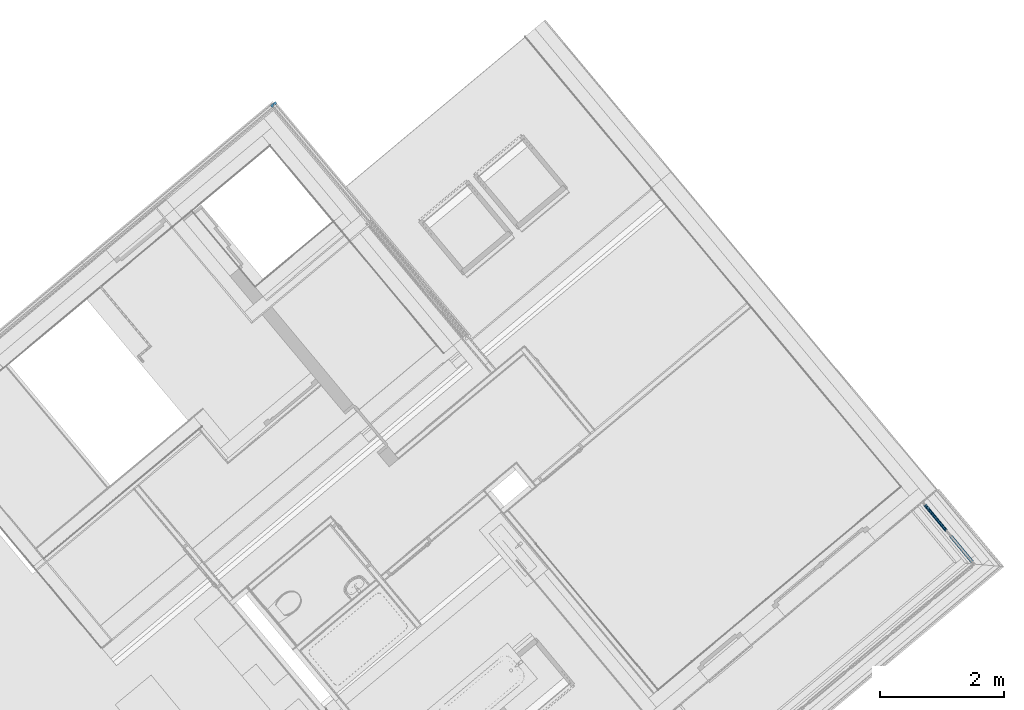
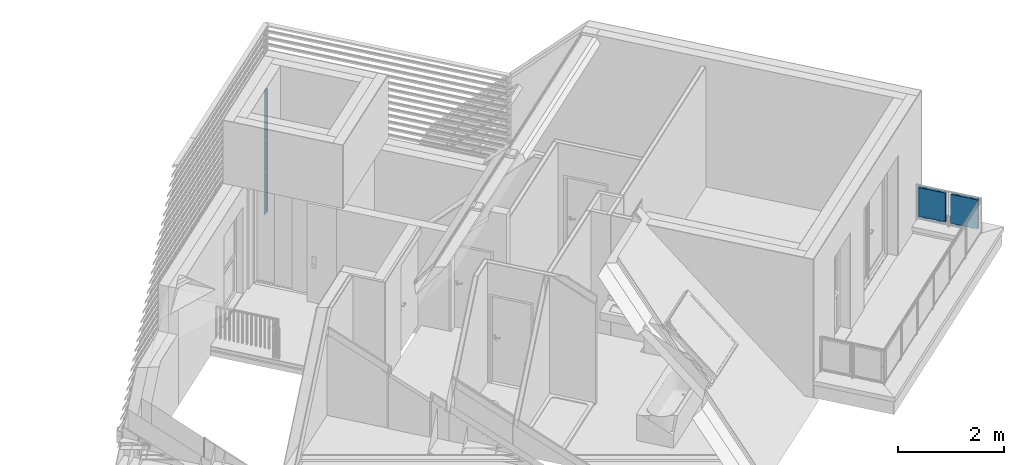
# One storey, part 42 of 47: 22 building element parts, 2 elements without a shape of their own.
"""IFC4 building model written with IfcOpenShell, lengths in metres."""

from ifc_helpers import new_model, entity, si_unit, converted_unit, derived_unit, direction, frame, origin_with_axes, place, context, subcontext, project, spatial, polygons, material, type_object, element, aggregate, save


model = new_model("IFC4")

# Units and contexts
model_context = context("Model", 3, precision=1e-05, world=origin_with_axes(), true_north=direction((0.0, 1.0)))
body_context = subcontext(model_context, "Body", "Model", "MODEL_VIEW")
ifc_project = project(units=[si_unit("LENGTHUNIT", "METRE"), si_unit("AREAUNIT", "SQUARE_METRE"), si_unit("VOLUMEUNIT", "CUBIC_METRE"), converted_unit("PLANEANGLEUNIT", "DEGREE", entity("IfcPlaneAngleMeasure", 0.0174532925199), si_unit("PLANEANGLEUNIT", "RADIAN"), dimensions=[0, 0, 0, 0, 0, 0, 0]), converted_unit("TIMEUNIT", "Year", entity("IfcTimeMeasure", 31556926.0), si_unit("TIMEUNIT", "SECOND"), dimensions=[0, 0, 1, 0, 0, 0, 0]), si_unit("MASSUNIT", "GRAM", prefix="KILO"), si_unit("THERMODYNAMICTEMPERATUREUNIT", "DEGREE_CELSIUS"), si_unit("LUMINOUSINTENSITYUNIT", "LUMEN"), si_unit("ENERGYUNIT", "JOULE", prefix="MEGA"), derived_unit("THERMALCONDUCTANCEUNIT", [(si_unit("POWERUNIT", "WATT"), 1), (si_unit("LENGTHUNIT", "METRE"), -1), (si_unit("THERMODYNAMICTEMPERATUREUNIT", "KELVIN"), -1)]), derived_unit("SPECIFICHEATCAPACITYUNIT", [(si_unit("ENERGYUNIT", "JOULE"), 1), (si_unit("MASSUNIT", "GRAM", prefix="KILO"), -1), (si_unit("THERMODYNAMICTEMPERATUREUNIT", "KELVIN"), -1)]), derived_unit("MASSDENSITYUNIT", [(si_unit("MASSUNIT", "GRAM", prefix="KILO"), 1), (si_unit("VOLUMEUNIT", "CUBIC_METRE"), -1)])], contexts=[model_context])

# Site, building, storey
site_placement = place(None, frame((-0.00153261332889, -0.00661245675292, 0.0), z_axis=(0.0, 0.0, 1.0), x_axis=(1.0, 0.0, 0.0)))
site = spatial("IfcSite", under=ifc_project, at=site_placement, Name="Site", CompositionType="ELEMENT")
building_placement = place(site_placement, origin_with_axes())
building = spatial("IfcBuilding", under=site, at=building_placement, Name="Building", CompositionType="ELEMENT")
storey_placement = place(building_placement, frame((0.0, 0.0, 8.66), z_axis=(0.0, 0.0, 1.0), x_axis=(1.0, 0.0, 0.0)))
storey = spatial("IfcBuildingStorey", under=building, at=storey_placement, Name="DG2", CompositionType="ELEMENT", Elevation=8.66)

# Curtain wall, building element parts
curtain_wall_type = type_object("IfcCurtainWallType", Name="Fassadentyp", PredefinedType="NOTDEFINED")
curtain_wall_placement = place(storey_placement, frame((3.22758193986, 25.8519152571, 0.32), z_axis=(0.0, 0.0, 1.0), x_axis=(1.0, 0.0, 0.0)))
curtain_wall = element("IfcCurtainWall", 1, at=curtain_wall_placement, inside=storey, type_object=curtain_wall_type, Name="Fassade-001", PredefinedType="NOTDEFINED")
ifc_material_1 = material(Name="Blech")
building_element_part_1_placement = place(curtain_wall_placement, origin_with_axes())
building_element_part_1 = element("IfcBuildingElementPart", 2, at=building_element_part_1_placement, material=ifc_material_1, Name="Blech", PredefinedType="NOTDEFINED", context=body_context, shape_type="Tessellation", body=[
    polygons([(-1.57788459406, 1.86580520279, 0.15), (-1.55485923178, 1.88503623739, 0.15), (-1.54203854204, 1.86968599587, 0.15), (-1.51517561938, 1.8921222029, 0.15), (-1.54081699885, 1.92282268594, 0.15), (-1.61756820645, 1.85871923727, 0.15), (-1.59192682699, 1.82801875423, 0.15), (-1.56506390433, 1.85045496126, 0.15), (-1.57788459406, 1.86580520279, 0.0), (-1.55485923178, 1.88503623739, 0.0), (-1.54203854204, 1.86968599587, 0.02), (-1.51517561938, 1.8921222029, 0.02), (-1.54081699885, 1.92282268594, -0.02), (-1.61756820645, 1.85871923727, -0.02), (-1.59192682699, 1.82801875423, 0.02), (-1.56506390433, 1.85045496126, 0.02)], [[[1, 2, 3, 4, 5, 6, 7, 8]], [[2, 1, 9, 10]], [[11, 3, 2, 10]], [[3, 11, 12, 4]], [[5, 4, 12, 13]], [[6, 5, 13, 14]], [[7, 6, 14, 15]], [[16, 8, 7, 15]], [[1, 8, 16, 9]], [[9, 16, 15, 14, 13, 12, 11, 10]]], closed=True),
])
building_element_part_2_placement = place(curtain_wall_placement, origin_with_axes())
building_element_part_2 = element("IfcBuildingElementPart", 3, at=building_element_part_2_placement, material=ifc_material_1, Name="Blech", PredefinedType="NOTDEFINED", context=body_context, shape_type="Tessellation", body=[
    polygons([(-1.57788459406, 1.86580520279, 0.3), (-1.55485923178, 1.88503623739, 0.3), (-1.54203854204, 1.86968599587, 0.3), (-1.51517561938, 1.8921222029, 0.3), (-1.54081699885, 1.92282268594, 0.3), (-1.61756820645, 1.85871923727, 0.3), (-1.59192682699, 1.82801875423, 0.3), (-1.56506390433, 1.85045496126, 0.3), (-1.57788459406, 1.86580520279, 0.15), (-1.55485923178, 1.88503623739, 0.15), (-1.54203854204, 1.86968599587, 0.15), (-1.51517561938, 1.8921222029, 0.15), (-1.54081699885, 1.92282268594, 0.15), (-1.61756820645, 1.85871923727, 0.15), (-1.59192682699, 1.82801875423, 0.15), (-1.56506390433, 1.85045496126, 0.15)], [[[1, 2, 3, 4, 5, 6, 7, 8]], [[2, 1, 9, 10]], [[11, 3, 2, 10]], [[3, 11, 12, 4]], [[13, 5, 4, 12]], [[14, 6, 5, 13]], [[15, 7, 6, 14]], [[16, 8, 7, 15]], [[1, 8, 16, 9]], [[9, 16, 15, 14, 13, 12, 11, 10]]], closed=True),
])
building_element_part_3_placement = place(curtain_wall_placement, origin_with_axes())
building_element_part_3 = element("IfcBuildingElementPart", 4, at=building_element_part_3_placement, material=ifc_material_1, Name="Blech", PredefinedType="NOTDEFINED", context=body_context, shape_type="Tessellation", body=[
    polygons([(-1.57788459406, 1.86580520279, 0.45), (-1.55485923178, 1.88503623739, 0.45), (-1.54203854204, 1.86968599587, 0.45), (-1.51517561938, 1.8921222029, 0.45), (-1.54081699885, 1.92282268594, 0.45), (-1.61756820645, 1.85871923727, 0.45), (-1.59192682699, 1.82801875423, 0.45), (-1.56506390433, 1.85045496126, 0.45), (-1.57788459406, 1.86580520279, 0.3), (-1.55485923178, 1.88503623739, 0.3), (-1.54203854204, 1.86968599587, 0.3), (-1.51517561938, 1.8921222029, 0.3), (-1.54081699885, 1.92282268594, 0.3), (-1.61756820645, 1.85871923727, 0.3), (-1.59192682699, 1.82801875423, 0.3), (-1.56506390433, 1.85045496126, 0.3)], [[[1, 2, 3, 4, 5, 6, 7, 8]], [[2, 1, 9, 10]], [[11, 3, 2, 10]], [[3, 11, 12, 4]], [[13, 5, 4, 12]], [[14, 6, 5, 13]], [[15, 7, 6, 14]], [[16, 8, 7, 15]], [[1, 8, 16, 9]], [[9, 16, 15, 14, 13, 12, 11, 10]]], closed=True),
])
building_element_part_4_placement = place(curtain_wall_placement, origin_with_axes())
building_element_part_4 = element("IfcBuildingElementPart", 5, at=building_element_part_4_placement, material=ifc_material_1, Name="Blech", PredefinedType="NOTDEFINED", context=body_context, shape_type="Tessellation", body=[
    polygons([(-1.57788459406, 1.86580520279, 0.6), (-1.55485923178, 1.88503623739, 0.6), (-1.54203854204, 1.86968599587, 0.6), (-1.51517561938, 1.8921222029, 0.6), (-1.54081699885, 1.92282268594, 0.6), (-1.61756820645, 1.85871923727, 0.6), (-1.59192682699, 1.82801875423, 0.6), (-1.56506390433, 1.85045496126, 0.6), (-1.57788459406, 1.86580520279, 0.45), (-1.55485923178, 1.88503623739, 0.45), (-1.54203854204, 1.86968599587, 0.45), (-1.51517561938, 1.8921222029, 0.45), (-1.54081699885, 1.92282268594, 0.45), (-1.61756820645, 1.85871923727, 0.45), (-1.59192682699, 1.82801875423, 0.45), (-1.56506390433, 1.85045496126, 0.45)], [[[1, 2, 3, 4, 5, 6, 7, 8]], [[2, 1, 9, 10]], [[11, 3, 2, 10]], [[3, 11, 12, 4]], [[13, 5, 4, 12]], [[14, 6, 5, 13]], [[15, 7, 6, 14]], [[16, 8, 7, 15]], [[1, 8, 16, 9]], [[9, 16, 15, 14, 13, 12, 11, 10]]], closed=True),
])
building_element_part_5_placement = place(curtain_wall_placement, origin_with_axes())
building_element_part_5 = element("IfcBuildingElementPart", 6, at=building_element_part_5_placement, material=ifc_material_1, Name="Blech", PredefinedType="NOTDEFINED", context=body_context, shape_type="Tessellation", body=[
    polygons([(-1.57788459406, 1.86580520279, 0.75), (-1.55485923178, 1.88503623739, 0.75), (-1.54203854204, 1.86968599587, 0.75), (-1.51517561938, 1.8921222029, 0.75), (-1.54081699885, 1.92282268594, 0.75), (-1.61756820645, 1.85871923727, 0.75), (-1.59192682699, 1.82801875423, 0.75), (-1.56506390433, 1.85045496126, 0.75), (-1.57788459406, 1.86580520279, 0.6), (-1.55485923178, 1.88503623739, 0.6), (-1.54203854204, 1.86968599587, 0.6), (-1.51517561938, 1.8921222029, 0.6), (-1.54081699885, 1.92282268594, 0.6), (-1.61756820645, 1.85871923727, 0.6), (-1.59192682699, 1.82801875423, 0.6), (-1.56506390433, 1.85045496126, 0.6)], [[[1, 2, 3, 4, 5, 6, 7, 8]], [[2, 1, 9, 10]], [[11, 3, 2, 10]], [[3, 11, 12, 4]], [[13, 5, 4, 12]], [[14, 6, 5, 13]], [[15, 7, 6, 14]], [[16, 8, 7, 15]], [[1, 8, 16, 9]], [[9, 16, 15, 14, 13, 12, 11, 10]]], closed=True),
])
building_element_part_6_placement = place(curtain_wall_placement, origin_with_axes())
building_element_part_6 = element("IfcBuildingElementPart", 7, at=building_element_part_6_placement, material=ifc_material_1, Name="Blech", PredefinedType="NOTDEFINED", context=body_context, shape_type="Tessellation", body=[
    polygons([(-1.57788459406, 1.86580520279, 0.9), (-1.55485923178, 1.88503623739, 0.9), (-1.54203854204, 1.86968599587, 0.9), (-1.51517561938, 1.8921222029, 0.9), (-1.54081699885, 1.92282268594, 0.9), (-1.61756820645, 1.85871923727, 0.9), (-1.59192682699, 1.82801875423, 0.9), (-1.56506390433, 1.85045496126, 0.9), (-1.57788459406, 1.86580520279, 0.75), (-1.55485923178, 1.88503623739, 0.75), (-1.54203854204, 1.86968599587, 0.75), (-1.51517561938, 1.8921222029, 0.75), (-1.54081699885, 1.92282268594, 0.75), (-1.61756820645, 1.85871923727, 0.75), (-1.59192682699, 1.82801875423, 0.75), (-1.56506390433, 1.85045496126, 0.75)], [[[1, 2, 3, 4, 5, 6, 7, 8]], [[2, 1, 9, 10]], [[11, 3, 2, 10]], [[3, 11, 12, 4]], [[13, 5, 4, 12]], [[14, 6, 5, 13]], [[15, 7, 6, 14]], [[16, 8, 7, 15]], [[1, 8, 16, 9]], [[9, 16, 15, 14, 13, 12, 11, 10]]], closed=True),
])
building_element_part_7_placement = place(curtain_wall_placement, origin_with_axes())
building_element_part_7 = element("IfcBuildingElementPart", 8, at=building_element_part_7_placement, material=ifc_material_1, Name="Blech", PredefinedType="NOTDEFINED", context=body_context, shape_type="Tessellation", body=[
    polygons([(-1.57788459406, 1.86580520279, 1.05), (-1.55485923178, 1.88503623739, 1.05), (-1.54203854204, 1.86968599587, 1.05), (-1.51517561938, 1.8921222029, 1.05), (-1.54081699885, 1.92282268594, 1.05), (-1.61756820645, 1.85871923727, 1.05), (-1.59192682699, 1.82801875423, 1.05), (-1.56506390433, 1.85045496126, 1.05), (-1.57788459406, 1.86580520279, 0.9), (-1.55485923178, 1.88503623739, 0.9), (-1.54203854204, 1.86968599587, 0.9), (-1.51517561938, 1.8921222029, 0.9), (-1.54081699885, 1.92282268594, 0.9), (-1.61756820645, 1.85871923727, 0.9), (-1.59192682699, 1.82801875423, 0.9), (-1.56506390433, 1.85045496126, 0.9)], [[[1, 2, 3, 4, 5, 6, 7, 8]], [[2, 1, 9, 10]], [[11, 3, 2, 10]], [[3, 11, 12, 4]], [[13, 5, 4, 12]], [[14, 6, 5, 13]], [[15, 7, 6, 14]], [[16, 8, 7, 15]], [[1, 8, 16, 9]], [[9, 16, 15, 14, 13, 12, 11, 10]]], closed=True),
])
building_element_part_8_placement = place(curtain_wall_placement, origin_with_axes())
building_element_part_8 = element("IfcBuildingElementPart", 9, at=building_element_part_8_placement, material=ifc_material_1, Name="Blech", PredefinedType="NOTDEFINED", context=body_context, shape_type="Tessellation", body=[
    polygons([(-1.57788459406, 1.86580520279, 1.2), (-1.55485923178, 1.88503623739, 1.2), (-1.54203854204, 1.86968599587, 1.2), (-1.51517561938, 1.8921222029, 1.2), (-1.54081699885, 1.92282268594, 1.2), (-1.61756820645, 1.85871923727, 1.2), (-1.59192682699, 1.82801875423, 1.2), (-1.56506390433, 1.85045496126, 1.2), (-1.57788459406, 1.86580520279, 1.05), (-1.55485923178, 1.88503623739, 1.05), (-1.54203854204, 1.86968599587, 1.05), (-1.51517561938, 1.8921222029, 1.05), (-1.54081699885, 1.92282268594, 1.05), (-1.61756820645, 1.85871923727, 1.05), (-1.59192682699, 1.82801875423, 1.05), (-1.56506390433, 1.85045496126, 1.05)], [[[1, 2, 3, 4, 5, 6, 7, 8]], [[2, 1, 9, 10]], [[11, 3, 2, 10]], [[3, 11, 12, 4]], [[13, 5, 4, 12]], [[14, 6, 5, 13]], [[15, 7, 6, 14]], [[16, 8, 7, 15]], [[1, 8, 16, 9]], [[9, 16, 15, 14, 13, 12, 11, 10]]], closed=True),
])
building_element_part_9_placement = place(curtain_wall_placement, origin_with_axes())
building_element_part_9 = element("IfcBuildingElementPart", 10, at=building_element_part_9_placement, material=ifc_material_1, Name="Blech", PredefinedType="NOTDEFINED", context=body_context, shape_type="Tessellation", body=[
    polygons([(-1.57788459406, 1.86580520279, 1.35), (-1.55485923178, 1.88503623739, 1.35), (-1.54203854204, 1.86968599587, 1.35), (-1.51517561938, 1.8921222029, 1.35), (-1.54081699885, 1.92282268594, 1.35), (-1.61756820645, 1.85871923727, 1.35), (-1.59192682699, 1.82801875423, 1.35), (-1.56506390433, 1.85045496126, 1.35), (-1.57788459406, 1.86580520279, 1.2), (-1.55485923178, 1.88503623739, 1.2), (-1.54203854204, 1.86968599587, 1.2), (-1.51517561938, 1.8921222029, 1.2), (-1.54081699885, 1.92282268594, 1.2), (-1.61756820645, 1.85871923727, 1.2), (-1.59192682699, 1.82801875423, 1.2), (-1.56506390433, 1.85045496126, 1.2)], [[[1, 2, 3, 4, 5, 6, 7, 8]], [[2, 1, 9, 10]], [[11, 3, 2, 10]], [[3, 11, 12, 4]], [[13, 5, 4, 12]], [[14, 6, 5, 13]], [[15, 7, 6, 14]], [[16, 8, 7, 15]], [[1, 8, 16, 9]], [[9, 16, 15, 14, 13, 12, 11, 10]]], closed=True),
])
building_element_part_10_placement = place(curtain_wall_placement, origin_with_axes())
building_element_part_10 = element("IfcBuildingElementPart", 11, at=building_element_part_10_placement, material=ifc_material_1, Name="Blech", PredefinedType="NOTDEFINED", context=body_context, shape_type="Tessellation", body=[
    polygons([(-1.57788459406, 1.86580520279, 1.5), (-1.55485923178, 1.88503623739, 1.5), (-1.54203854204, 1.86968599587, 1.5), (-1.51517561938, 1.8921222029, 1.5), (-1.54081699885, 1.92282268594, 1.5), (-1.61756820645, 1.85871923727, 1.5), (-1.59192682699, 1.82801875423, 1.5), (-1.56506390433, 1.85045496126, 1.5), (-1.57788459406, 1.86580520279, 1.35), (-1.55485923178, 1.88503623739, 1.35), (-1.54203854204, 1.86968599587, 1.35), (-1.51517561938, 1.8921222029, 1.35), (-1.54081699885, 1.92282268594, 1.35), (-1.61756820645, 1.85871923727, 1.35), (-1.59192682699, 1.82801875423, 1.35), (-1.56506390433, 1.85045496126, 1.35)], [[[1, 2, 3, 4, 5, 6, 7, 8]], [[2, 1, 9, 10]], [[11, 3, 2, 10]], [[3, 11, 12, 4]], [[13, 5, 4, 12]], [[14, 6, 5, 13]], [[15, 7, 6, 14]], [[16, 8, 7, 15]], [[1, 8, 16, 9]], [[9, 16, 15, 14, 13, 12, 11, 10]]], closed=True),
])
building_element_part_11_placement = place(curtain_wall_placement, origin_with_axes())
building_element_part_11 = element("IfcBuildingElementPart", 12, at=building_element_part_11_placement, material=ifc_material_1, Name="Blech", PredefinedType="NOTDEFINED", context=body_context, shape_type="Tessellation", body=[
    polygons([(-1.57788459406, 1.86580520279, 1.65), (-1.55485923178, 1.88503623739, 1.65), (-1.54203854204, 1.86968599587, 1.65), (-1.51517561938, 1.8921222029, 1.65), (-1.54081699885, 1.92282268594, 1.65), (-1.61756820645, 1.85871923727, 1.65), (-1.59192682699, 1.82801875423, 1.65), (-1.56506390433, 1.85045496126, 1.65), (-1.57788459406, 1.86580520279, 1.5), (-1.55485923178, 1.88503623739, 1.5), (-1.54203854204, 1.86968599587, 1.5), (-1.51517561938, 1.8921222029, 1.5), (-1.54081699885, 1.92282268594, 1.5), (-1.61756820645, 1.85871923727, 1.5), (-1.59192682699, 1.82801875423, 1.5), (-1.56506390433, 1.85045496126, 1.5)], [[[1, 2, 3, 4, 5, 6, 7, 8]], [[2, 1, 9, 10]], [[11, 3, 2, 10]], [[3, 11, 12, 4]], [[13, 5, 4, 12]], [[14, 6, 5, 13]], [[15, 7, 6, 14]], [[16, 8, 7, 15]], [[1, 8, 16, 9]], [[9, 16, 15, 14, 13, 12, 11, 10]]], closed=True),
])
building_element_part_12_placement = place(curtain_wall_placement, origin_with_axes())
building_element_part_12 = element("IfcBuildingElementPart", 13, at=building_element_part_12_placement, material=ifc_material_1, Name="Blech", PredefinedType="NOTDEFINED", context=body_context, shape_type="Tessellation", body=[
    polygons([(-1.57788459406, 1.86580520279, 1.8), (-1.55485923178, 1.88503623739, 1.8), (-1.54203854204, 1.86968599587, 1.8), (-1.51517561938, 1.8921222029, 1.8), (-1.54081699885, 1.92282268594, 1.8), (-1.61756820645, 1.85871923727, 1.8), (-1.59192682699, 1.82801875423, 1.8), (-1.56506390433, 1.85045496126, 1.8), (-1.57788459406, 1.86580520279, 1.65), (-1.55485923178, 1.88503623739, 1.65), (-1.54203854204, 1.86968599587, 1.65), (-1.51517561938, 1.8921222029, 1.65), (-1.54081699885, 1.92282268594, 1.65), (-1.61756820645, 1.85871923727, 1.65), (-1.59192682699, 1.82801875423, 1.65), (-1.56506390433, 1.85045496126, 1.65)], [[[1, 2, 3, 4, 5, 6, 7, 8]], [[2, 1, 9, 10]], [[11, 3, 2, 10]], [[3, 11, 12, 4]], [[13, 5, 4, 12]], [[14, 6, 5, 13]], [[15, 7, 6, 14]], [[16, 8, 7, 15]], [[1, 8, 16, 9]], [[9, 16, 15, 14, 13, 12, 11, 10]]], closed=True),
])
building_element_part_13_placement = place(curtain_wall_placement, origin_with_axes())
building_element_part_13 = element("IfcBuildingElementPart", 14, at=building_element_part_13_placement, material=ifc_material_1, Name="Blech", PredefinedType="NOTDEFINED", context=body_context, shape_type="Tessellation", body=[
    polygons([(-1.57788459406, 1.86580520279, 1.95), (-1.55485923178, 1.88503623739, 1.95), (-1.54203854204, 1.86968599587, 1.95), (-1.51517561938, 1.8921222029, 1.95), (-1.54081699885, 1.92282268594, 1.95), (-1.61756820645, 1.85871923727, 1.95), (-1.59192682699, 1.82801875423, 1.95), (-1.56506390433, 1.85045496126, 1.95), (-1.57788459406, 1.86580520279, 1.8), (-1.55485923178, 1.88503623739, 1.8), (-1.54203854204, 1.86968599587, 1.8), (-1.51517561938, 1.8921222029, 1.8), (-1.54081699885, 1.92282268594, 1.8), (-1.61756820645, 1.85871923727, 1.8), (-1.59192682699, 1.82801875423, 1.8), (-1.56506390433, 1.85045496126, 1.8)], [[[1, 2, 3, 4, 5, 6, 7, 8]], [[2, 1, 9, 10]], [[11, 3, 2, 10]], [[3, 11, 12, 4]], [[13, 5, 4, 12]], [[14, 6, 5, 13]], [[15, 7, 6, 14]], [[16, 8, 7, 15]], [[1, 8, 16, 9]], [[9, 16, 15, 14, 13, 12, 11, 10]]], closed=True),
])
building_element_part_14_placement = place(curtain_wall_placement, origin_with_axes())
building_element_part_14 = element("IfcBuildingElementPart", 15, at=building_element_part_14_placement, material=ifc_material_1, Name="Blech", PredefinedType="NOTDEFINED", context=body_context, shape_type="Tessellation", body=[
    polygons([(-1.57788459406, 1.86580520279, 2.1), (-1.55485923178, 1.88503623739, 2.1), (-1.54203854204, 1.86968599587, 2.1), (-1.51517561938, 1.8921222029, 2.1), (-1.54081699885, 1.92282268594, 2.1), (-1.61756820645, 1.85871923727, 2.1), (-1.59192682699, 1.82801875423, 2.1), (-1.56506390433, 1.85045496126, 2.1), (-1.57788459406, 1.86580520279, 1.95), (-1.55485923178, 1.88503623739, 1.95), (-1.54203854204, 1.86968599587, 1.95), (-1.51517561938, 1.8921222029, 1.95), (-1.54081699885, 1.92282268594, 1.95), (-1.61756820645, 1.85871923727, 1.95), (-1.59192682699, 1.82801875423, 1.95), (-1.56506390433, 1.85045496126, 1.95)], [[[1, 2, 3, 4, 5, 6, 7, 8]], [[2, 1, 9, 10]], [[11, 3, 2, 10]], [[3, 11, 12, 4]], [[13, 5, 4, 12]], [[14, 6, 5, 13]], [[15, 7, 6, 14]], [[16, 8, 7, 15]], [[1, 8, 16, 9]], [[9, 16, 15, 14, 13, 12, 11, 10]]], closed=True),
])
building_element_part_15_placement = place(curtain_wall_placement, origin_with_axes())
building_element_part_15 = element("IfcBuildingElementPart", 16, at=building_element_part_15_placement, material=ifc_material_1, Name="Blech", PredefinedType="NOTDEFINED", context=body_context, shape_type="Tessellation", body=[
    polygons([(-1.57788459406, 1.86580520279, 2.25), (-1.55485923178, 1.88503623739, 2.25), (-1.54203854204, 1.86968599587, 2.25), (-1.51517561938, 1.8921222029, 2.25), (-1.54081699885, 1.92282268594, 2.25), (-1.61756820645, 1.85871923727, 2.25), (-1.59192682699, 1.82801875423, 2.25), (-1.56506390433, 1.85045496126, 2.25), (-1.57788459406, 1.86580520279, 2.1), (-1.55485923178, 1.88503623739, 2.1), (-1.54203854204, 1.86968599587, 2.1), (-1.51517561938, 1.8921222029, 2.1), (-1.54081699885, 1.92282268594, 2.1), (-1.61756820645, 1.85871923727, 2.1), (-1.59192682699, 1.82801875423, 2.1), (-1.56506390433, 1.85045496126, 2.1)], [[[1, 2, 3, 4, 5, 6, 7, 8]], [[2, 1, 9, 10]], [[11, 3, 2, 10]], [[3, 11, 12, 4]], [[13, 5, 4, 12]], [[14, 6, 5, 13]], [[15, 7, 6, 14]], [[16, 8, 7, 15]], [[1, 8, 16, 9]], [[9, 16, 15, 14, 13, 12, 11, 10]]], closed=True),
])
building_element_part_16_placement = place(curtain_wall_placement, origin_with_axes())
building_element_part_16 = element("IfcBuildingElementPart", 17, at=building_element_part_16_placement, material=ifc_material_1, Name="Blech", PredefinedType="NOTDEFINED", context=body_context, shape_type="Tessellation", body=[
    polygons([(-1.57788459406, 1.86580520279, 2.4), (-1.55485923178, 1.88503623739, 2.4), (-1.54203854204, 1.86968599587, 2.4), (-1.51517561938, 1.8921222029, 2.4), (-1.54081699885, 1.92282268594, 2.4), (-1.61756820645, 1.85871923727, 2.4), (-1.59192682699, 1.82801875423, 2.4), (-1.56506390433, 1.85045496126, 2.4), (-1.57788459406, 1.86580520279, 2.25), (-1.55485923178, 1.88503623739, 2.25), (-1.54203854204, 1.86968599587, 2.25), (-1.51517561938, 1.8921222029, 2.25), (-1.54081699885, 1.92282268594, 2.25), (-1.61756820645, 1.85871923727, 2.25), (-1.59192682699, 1.82801875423, 2.25), (-1.56506390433, 1.85045496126, 2.25)], [[[1, 2, 3, 4, 5, 6, 7, 8]], [[2, 1, 9, 10]], [[11, 3, 2, 10]], [[3, 11, 12, 4]], [[13, 5, 4, 12]], [[14, 6, 5, 13]], [[15, 7, 6, 14]], [[16, 8, 7, 15]], [[1, 8, 16, 9]], [[9, 16, 15, 14, 13, 12, 11, 10]]], closed=True),
])
building_element_part_17_placement = place(curtain_wall_placement, origin_with_axes())
building_element_part_17 = element("IfcBuildingElementPart", 18, at=building_element_part_17_placement, material=ifc_material_1, Name="Blech", PredefinedType="NOTDEFINED", context=body_context, shape_type="Tessellation", body=[
    polygons([(-1.57788459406, 1.86580520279, 2.55), (-1.55485923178, 1.88503623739, 2.55), (-1.54203854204, 1.86968599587, 2.55), (-1.51517561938, 1.8921222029, 2.55), (-1.54081699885, 1.92282268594, 2.55), (-1.61756820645, 1.85871923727, 2.55), (-1.59192682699, 1.82801875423, 2.55), (-1.56506390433, 1.85045496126, 2.55), (-1.57788459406, 1.86580520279, 2.4), (-1.55485923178, 1.88503623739, 2.4), (-1.54203854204, 1.86968599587, 2.4), (-1.51517561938, 1.8921222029, 2.4), (-1.54081699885, 1.92282268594, 2.4), (-1.61756820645, 1.85871923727, 2.4), (-1.59192682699, 1.82801875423, 2.4), (-1.56506390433, 1.85045496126, 2.4)], [[[1, 2, 3, 4, 5, 6, 7, 8]], [[2, 1, 9, 10]], [[11, 3, 2, 10]], [[3, 11, 12, 4]], [[13, 5, 4, 12]], [[14, 6, 5, 13]], [[15, 7, 6, 14]], [[16, 8, 7, 15]], [[1, 8, 16, 9]], [[9, 16, 15, 14, 13, 12, 11, 10]]], closed=True),
])
building_element_part_18_placement = place(curtain_wall_placement, origin_with_axes())
building_element_part_18 = element("IfcBuildingElementPart", 19, at=building_element_part_18_placement, material=ifc_material_1, Name="Blech", PredefinedType="NOTDEFINED", context=body_context, shape_type="Tessellation", body=[
    polygons([(-1.57788459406, 1.86580520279, 2.7), (-1.55485923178, 1.88503623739, 2.7), (-1.54203854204, 1.86968599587, 2.7), (-1.51517561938, 1.8921222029, 2.7), (-1.54081699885, 1.92282268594, 2.7), (-1.61756820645, 1.85871923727, 2.7), (-1.59192682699, 1.82801875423, 2.7), (-1.56506390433, 1.85045496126, 2.7), (-1.57788459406, 1.86580520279, 2.55), (-1.55485923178, 1.88503623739, 2.55), (-1.54203854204, 1.86968599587, 2.55), (-1.51517561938, 1.8921222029, 2.55), (-1.54081699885, 1.92282268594, 2.55), (-1.61756820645, 1.85871923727, 2.55), (-1.59192682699, 1.82801875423, 2.55), (-1.56506390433, 1.85045496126, 2.55)], [[[1, 2, 3, 4, 5, 6, 7, 8]], [[2, 1, 9, 10]], [[11, 3, 2, 10]], [[3, 11, 12, 4]], [[13, 5, 4, 12]], [[14, 6, 5, 13]], [[15, 7, 6, 14]], [[16, 8, 7, 15]], [[1, 8, 16, 9]], [[9, 16, 15, 14, 13, 12, 11, 10]]], closed=True),
])
building_element_part_19_placement = place(curtain_wall_placement, origin_with_axes())
building_element_part_19 = element("IfcBuildingElementPart", 20, at=building_element_part_19_placement, material=ifc_material_1, Name="Blech", PredefinedType="NOTDEFINED", context=body_context, shape_type="Tessellation", body=[
    polygons([(-1.57788459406, 1.86580520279, 2.85), (-1.55485923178, 1.88503623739, 2.85), (-1.54203854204, 1.86968599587, 2.85), (-1.51517561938, 1.8921222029, 2.85), (-1.54081699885, 1.92282268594, 2.85), (-1.61756820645, 1.85871923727, 2.85), (-1.59192682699, 1.82801875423, 2.85), (-1.56506390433, 1.85045496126, 2.85), (-1.57788459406, 1.86580520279, 2.7), (-1.55485923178, 1.88503623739, 2.7), (-1.54203854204, 1.86968599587, 2.7), (-1.51517561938, 1.8921222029, 2.7), (-1.54081699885, 1.92282268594, 2.7), (-1.61756820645, 1.85871923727, 2.7), (-1.59192682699, 1.82801875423, 2.7), (-1.56506390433, 1.85045496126, 2.7)], [[[1, 2, 3, 4, 5, 6, 7, 8]], [[2, 1, 9, 10]], [[11, 3, 2, 10]], [[3, 11, 12, 4]], [[13, 5, 4, 12]], [[14, 6, 5, 13]], [[15, 7, 6, 14]], [[16, 8, 7, 15]], [[1, 8, 16, 9]], [[9, 16, 15, 14, 13, 12, 11, 10]]], closed=True),
])
aggregate(curtain_wall, [building_element_part_1, building_element_part_2, building_element_part_3, building_element_part_4, building_element_part_5, building_element_part_6, building_element_part_7, building_element_part_8, building_element_part_9, building_element_part_10, building_element_part_11, building_element_part_12, building_element_part_13, building_element_part_14, building_element_part_15, building_element_part_16, building_element_part_17, building_element_part_18, building_element_part_19])

# Railing, building element parts
railing_type = type_object("IfcRailingType", Name="Geländerart", PredefinedType="NOTDEFINED")
railing_placement = place(storey_placement, frame((8.09801261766, 17.9211539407, 0.38), z_axis=(0.0, 0.0, 1.0), x_axis=(1.0, 0.0, 0.0)))
railing = element("IfcRailing", 21, at=railing_placement, inside=storey, type_object=railing_type, Name="Geländer - 001", PredefinedType="NOTDEFINED")
ifc_material_2 = material(Name="Aluminium")
building_element_part_20_placement = place(railing_placement, origin_with_axes())
building_element_part_20 = element("IfcBuildingElementPart", 22, at=building_element_part_20_placement, material=ifc_material_2, Name="Aluminium", PredefinedType="NOTDEFINED", context=body_context, shape_type="Tessellation", body=[
    polygons([(4.75843804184, 2.50942008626, 0.12), (4.71366027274, 2.56322483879, 0.12), (4.71366027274, 2.56322483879, 0.095), (4.75843804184, 2.50942008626, 0.095), (4.76228123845, 2.51261849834, 0.12), (4.71750346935, 2.56642325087, 0.12), (4.71750346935, 2.56642325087, 0.095), (4.76228123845, 2.51261849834, 0.095)], [[[1, 2, 3, 4]], [[5, 6, 2, 1]], [[2, 6, 7, 3]], [[4, 3, 7, 8]], [[1, 4, 8, 5]], [[8, 7, 6, 5]]], closed=True),
    polygons([(4.58039336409, 2.72335771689, 0.12), (4.53561559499, 2.77716246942, 0.12), (4.53561559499, 2.77716246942, 0.095), (4.58039336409, 2.72335771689, 0.095), (4.5842365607, 2.72655612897, 0.12), (4.5394587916, 2.7803608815, 0.12), (4.5394587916, 2.7803608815, 0.095), (4.5842365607, 2.72655612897, 0.095)], [[[1, 2, 3, 4]], [[5, 6, 2, 1]], [[2, 6, 7, 3]], [[4, 3, 7, 8]], [[1, 4, 8, 5]], [[8, 7, 6, 5]]], closed=True),
    polygons([(4.53561559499, 2.77716246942, 0.79), (4.58039336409, 2.72335771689, 0.79), (4.58039336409, 2.72335771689, 0.795), (4.53561559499, 2.77716246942, 0.795), (4.5394587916, 2.7803608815, 0.79), (4.5842365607, 2.72655612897, 0.79), (4.5842365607, 2.72655612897, 0.795), (4.5394587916, 2.7803608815, 0.795)], [[[1, 2, 3, 4]], [[5, 6, 2, 1]], [[2, 6, 7, 3]], [[4, 3, 7, 8]], [[1, 4, 8, 5]], [[8, 7, 6, 5]]], closed=True),
    polygons([(4.71366027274, 2.56322483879, 0.79), (4.75843804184, 2.50942008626, 0.79), (4.75843804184, 2.50942008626, 0.795), (4.71366027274, 2.56322483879, 0.795), (4.71750346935, 2.56642325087, 0.79), (4.76228123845, 2.51261849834, 0.79), (4.76228123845, 2.51261849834, 0.795), (4.71750346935, 2.56642325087, 0.795)], [[[1, 2, 3, 4]], [[5, 6, 2, 1]], [[2, 6, 7, 3]], [[4, 3, 7, 8]], [[1, 4, 8, 5]], [[8, 7, 6, 5]]], closed=True),
    polygons([(4.84354386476, 2.4501474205, 0.12), (4.80511189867, 2.41816329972, 0.12), (4.45435296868, 2.83963354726, 0.12), (4.49278493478, 2.87161766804, 0.12), (4.83075021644, 2.46552020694, 0.14), (4.81922062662, 2.45592497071, 0.14), (4.8224190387, 2.4520817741, 0.135), (4.80704625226, 2.43928812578, 0.135), (4.80384784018, 2.44313132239, 0.14), (4.79231825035, 2.43353608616, 0.14), (4.467146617, 2.82426076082, 0.14), (4.467146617, 2.82426076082, 0.77), (4.79231825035, 2.43353608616, 0.77), (4.79231825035, 2.43353608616, 0.14), (4.80511189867, 2.41816329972, 0.12), (4.80511189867, 2.41816329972, 0.79), (4.45435296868, 2.83963354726, 0.79), (4.49278493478, 2.87161766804, 0.79), (4.84354386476, 2.4501474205, 0.79), (4.84354386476, 2.4501474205, 0.12), (4.83075021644, 2.46552020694, 0.14), (4.83075021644, 2.46552020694, 0.77), (4.50557858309, 2.8562448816, 0.77), (4.50557858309, 2.8562448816, 0.14), (4.49404899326, 2.84664964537, 0.14), (4.49404899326, 2.84664964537, 0.77), (4.81922062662, 2.45592497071, 0.77), (4.81922062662, 2.45592497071, 0.14), (4.8224190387, 2.4520817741, 0.135), (4.8224190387, 2.4520817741, 0.775), (4.49085058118, 2.85049284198, 0.775), (4.49085058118, 2.85049284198, 0.135), (4.47547779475, 2.83769919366, 0.135), (4.47547779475, 2.83769919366, 0.775), (4.80704625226, 2.43928812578, 0.775), (4.80704625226, 2.43928812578, 0.135), (4.80384784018, 2.44313132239, 0.14), (4.80384784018, 2.44313132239, 0.77), (4.47867620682, 2.83385599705, 0.77), (4.47867620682, 2.83385599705, 0.14)], [[[1, 2, 3, 4]], [[1, 5, 6, 7, 8, 9, 10, 2]], [[2, 10, 11, 12, 13, 14, 15, 16, 17, 3]], [[4, 3, 17, 18]], [[5, 1, 4, 18, 19, 20, 21, 22, 23, 24]], [[6, 5, 24, 25]], [[7, 6, 25, 26, 27, 28, 29, 30, 31, 32]], [[8, 7, 32, 33]], [[9, 8, 33, 34, 35, 36, 37, 38, 39, 40]], [[10, 9, 40, 11]], [[11, 40, 39, 12]], [[12, 39, 38, 13]], [[13, 38, 37, 14]], [[20, 15, 14, 37, 36, 29, 28, 21]], [[19, 16, 15, 20]], [[18, 17, 16, 19]], [[27, 22, 21, 28]], [[26, 23, 22, 27]], [[25, 24, 23, 26]], [[35, 30, 29, 36]], [[34, 31, 30, 35]], [[33, 32, 31, 34]]], closed=True),
])
ifc_material_3 = material(Name="Profilit")
building_element_part_21_placement = place(railing_placement, origin_with_axes())
building_element_part_21 = element("IfcBuildingElementPart", 23, at=building_element_part_21_placement, material=ifc_material_3, Name="Profilit", PredefinedType="NOTDEFINED", context=body_context, shape_type="Tessellation", body=[
    polygons([(4.0607506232, 3.33603337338, 0.135), (4.39231908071, 2.9376223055, 0.135), (4.39231908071, 2.9376223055, 0.775), (4.0607506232, 3.33603337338, 0.775), (4.40769186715, 2.95041595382, 0.135), (4.07612340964, 3.3488270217, 0.135), (4.40769186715, 2.95041595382, 0.775), (4.07612340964, 3.3488270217, 0.775)], [[[1, 2, 3, 4]], [[5, 2, 1, 6]], [[7, 3, 2, 5]], [[4, 3, 7, 8]], [[1, 4, 8, 6]], [[7, 5, 6, 8]]], closed=True),
])
building_element_part_22_placement = place(railing_placement, origin_with_axes())
building_element_part_22 = element("IfcBuildingElementPart", 24, at=building_element_part_22_placement, material=ifc_material_2, Name="Aluminium", PredefinedType="NOTDEFINED", context=body_context, shape_type="Tessellation", body=[
    polygons([(4.34371087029, 3.00775426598, 0.12), (4.2989331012, 3.06155901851, 0.12), (4.2989331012, 3.06155901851, 0.095), (4.34371087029, 3.00775426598, 0.095), (4.3475540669, 3.01095267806, 0.12), (4.30277629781, 3.06475743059, 0.12), (4.30277629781, 3.06475743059, 0.095), (4.3475540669, 3.01095267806, 0.095)], [[[1, 2, 3, 4]], [[5, 6, 2, 1]], [[2, 6, 7, 3]], [[4, 3, 7, 8]], [[1, 4, 8, 5]], [[8, 7, 6, 5]]], closed=True),
    polygons([(4.16566619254, 3.22169189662, 0.12), (4.12088842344, 3.27549664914, 0.12), (4.12088842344, 3.27549664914, 0.095), (4.16566619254, 3.22169189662, 0.095), (4.16950938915, 3.22489030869, 0.12), (4.12473162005, 3.27869506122, 0.12), (4.12473162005, 3.27869506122, 0.095), (4.16950938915, 3.22489030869, 0.095)], [[[1, 2, 3, 4]], [[5, 6, 2, 1]], [[2, 6, 7, 3]], [[4, 3, 7, 8]], [[1, 4, 8, 5]], [[8, 7, 6, 5]]], closed=True),
    polygons([(4.12088842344, 3.27549664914, 0.79), (4.16566619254, 3.22169189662, 0.79), (4.16566619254, 3.22169189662, 0.795), (4.12088842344, 3.27549664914, 0.795), (4.12473162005, 3.27869506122, 0.79), (4.16950938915, 3.22489030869, 0.79), (4.16950938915, 3.22489030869, 0.795), (4.12473162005, 3.27869506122, 0.795)], [[[1, 2, 3, 4]], [[5, 6, 2, 1]], [[2, 6, 7, 3]], [[4, 3, 7, 8]], [[1, 4, 8, 5]], [[8, 7, 6, 5]]], closed=True),
    polygons([(4.2989331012, 3.06155901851, 0.79), (4.34371087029, 3.00775426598, 0.79), (4.34371087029, 3.00775426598, 0.795), (4.2989331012, 3.06155901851, 0.795), (4.30277629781, 3.06475743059, 0.79), (4.3475540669, 3.01095267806, 0.79), (4.3475540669, 3.01095267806, 0.795), (4.30277629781, 3.06475743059, 0.795)], [[[1, 2, 3, 4]], [[5, 6, 2, 1]], [[2, 6, 7, 3]], [[4, 3, 7, 8]], [[1, 4, 8, 5]], [[8, 7, 6, 5]]], closed=True),
    polygons([(4.42881669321, 2.94848160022, 0.12), (4.39038472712, 2.91649747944, 0.12), (4.03962579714, 3.33796772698, 0.12), (4.07805776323, 3.36995184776, 0.12), (4.4160230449, 2.96385438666, 0.14), (4.40449345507, 2.95425915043, 0.14), (4.40769186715, 2.95041595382, 0.135), (4.39231908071, 2.9376223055, 0.135), (4.38912066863, 2.94146550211, 0.14), (4.3775910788, 2.93187026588, 0.14), (4.05241944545, 3.32259494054, 0.14), (4.05241944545, 3.32259494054, 0.77), (4.3775910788, 2.93187026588, 0.77), (4.3775910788, 2.93187026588, 0.14), (4.39038472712, 2.91649747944, 0.12), (4.39038472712, 2.91649747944, 0.79), (4.03962579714, 3.33796772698, 0.79), (4.07805776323, 3.36995184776, 0.79), (4.42881669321, 2.94848160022, 0.79), (4.42881669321, 2.94848160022, 0.12), (4.4160230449, 2.96385438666, 0.14), (4.4160230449, 2.96385438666, 0.77), (4.09085141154, 3.35457906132, 0.77), (4.09085141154, 3.35457906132, 0.14), (4.07932182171, 3.34498382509, 0.14), (4.07932182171, 3.34498382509, 0.77), (4.40449345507, 2.95425915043, 0.77), (4.40449345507, 2.95425915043, 0.14), (4.40769186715, 2.95041595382, 0.135), (4.40769186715, 2.95041595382, 0.775), (4.07612340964, 3.3488270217, 0.775), (4.07612340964, 3.3488270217, 0.135), (4.0607506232, 3.33603337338, 0.135), (4.0607506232, 3.33603337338, 0.775), (4.39231908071, 2.9376223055, 0.775), (4.39231908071, 2.9376223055, 0.135), (4.38912066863, 2.94146550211, 0.14), (4.38912066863, 2.94146550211, 0.77), (4.06394903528, 3.33219017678, 0.77), (4.06394903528, 3.33219017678, 0.14)], [[[1, 2, 3, 4]], [[1, 5, 6, 7, 8, 9, 10, 2]], [[2, 10, 11, 12, 13, 14, 15, 16, 17, 3]], [[4, 3, 17, 18]], [[5, 1, 4, 18, 19, 20, 21, 22, 23, 24]], [[6, 5, 24, 25]], [[7, 6, 25, 26, 27, 28, 29, 30, 31, 32]], [[8, 7, 32, 33]], [[9, 8, 33, 34, 35, 36, 37, 38, 39, 40]], [[10, 9, 40, 11]], [[11, 40, 39, 12]], [[12, 39, 38, 13]], [[13, 38, 37, 14]], [[20, 15, 14, 37, 36, 29, 28, 21]], [[19, 16, 15, 20]], [[18, 17, 16, 19]], [[27, 22, 21, 28]], [[26, 23, 22, 27]], [[25, 24, 23, 26]], [[35, 30, 29, 36]], [[34, 31, 30, 35]], [[33, 32, 31, 34]]], closed=True),
])
aggregate(railing, [building_element_part_20, building_element_part_21, building_element_part_22])

save(model, "model.ifc")
